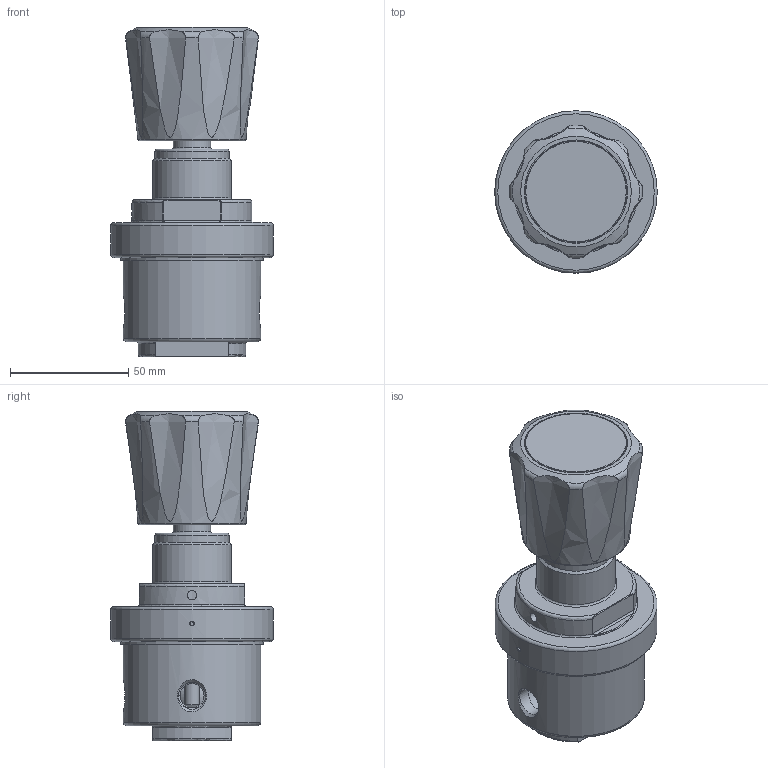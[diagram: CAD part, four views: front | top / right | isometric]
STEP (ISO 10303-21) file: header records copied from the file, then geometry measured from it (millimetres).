
FILE_DESCRIPTION(/* description */ (''),/* implementation_level */ '2;1');
FILE_NAME(/* name */ 'U:/AirCom-Produktdokumentation/Druckregler/RD/Zeichnungen/CAD-Aircom/3D/B-RD4-02S.step',/* time_stamp */ '2022-09-16T10:47:25+02:00',/* author */ (''),/* organization */ (''),/* preprocessor_version */ 'ST-DEVELOPER v19',/* originating_system */ 'Autodesk Translation Framework v11.7.0.108',/* authorisation */ '');
FILE_SCHEMA (('AUTOMOTIVE_DESIGN { 1 0 10303 214 3 1 1 }'));
Length unit declared in the file: millimetre
Products named in the file (9): (Nicht gespeichert); TE60814-2461; ERAA09900; ERAA09901; 61058; D42402; 4540_MODEL; 45617; D41886
Assembly tree (8 placements, depth 3):
  (Nicht gespeichert)
    TE60814-2461
    ERAA09900
      ERAA09901
      61058
    D42402
    4540_MODEL
      45617
    D41886
Bounding box: 68.58 x 68.58 x 139.18 mm (x, y, z)
Volume: 176859.5 mm3; surface area: 65280.8 mm2
Topology: 7 solids, 7 shells, 276 faces, 692 edges, 448 vertices
Faces by surface type: plane 100, cylinder 87, torus 33, cone 31, bspline 25
Full cylindrical faces by diameter (mm): 1.524 x1, 3.9 x1, 3.962 x1, 4.1 x2, 4.8 x3, 6.28 x1, 8 x1, 8.458 x1, 8.509 x6, 9.497 x1, 9.525 x6, 9.868 x1, 9.88 x1, 9.883 x4, 11.445 x3, 11.633 x3, 12 x1, 12.7 x2, 14.2 x2, 14.224 x1, 14.83 x2, 15.748 x1, 26.924 x1, 31.242 x1, 33.198 x1, 35 x1, 37.9 x1, 38.175 x1, 39.37 x1, 42.8 x1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
Entity records: 17697 total; most frequent: CARTESIAN_POINT 10914, ORIENTED_EDGE 1372, DIRECTION 1317, EDGE_CURVE 686, AXIS2_PLACEMENT_3D 535, VERTEX_POINT 448, EDGE_LOOP 322, FACE_OUTER_BOUND 276
